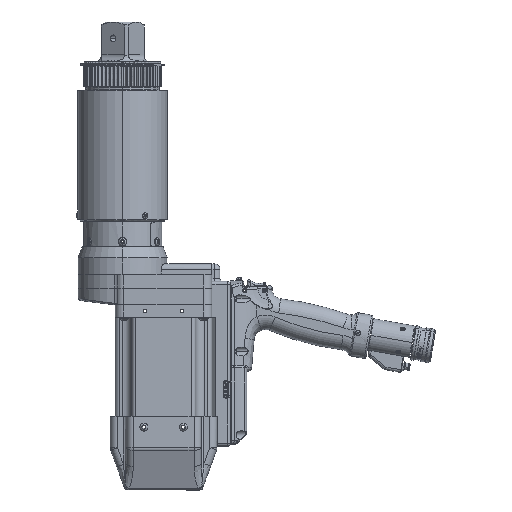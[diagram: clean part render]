
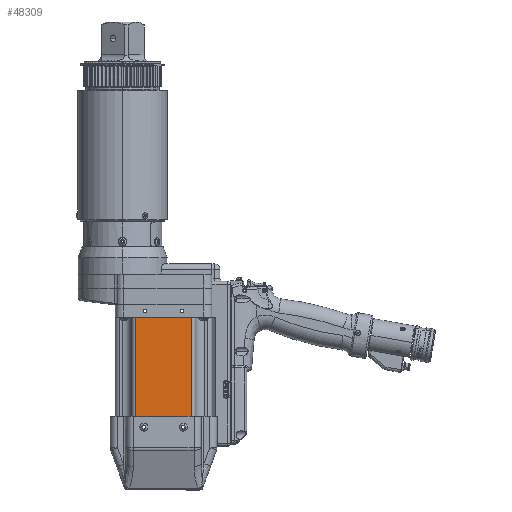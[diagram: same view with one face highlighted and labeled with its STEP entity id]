
A CAD part, left-side view. The second image highlights one B-rep face of the part: STEP entity #48309.
In plain terms, the highlighted planar face has unit normal (-1, 0, 0).
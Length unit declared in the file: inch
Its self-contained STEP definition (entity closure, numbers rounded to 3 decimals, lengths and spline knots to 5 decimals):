
#16280 = VERTEX_POINT ( 'NONE', #169344 ) ;
#35262 = CARTESIAN_POINT ( 'NONE',  ( -2.2045, 1.27, -11.54144 ) ) ;
#40039 = DIRECTION ( 'NONE',  ( 1., 0., 0. ) ) ;
#46911 = LINE ( 'NONE', #99493, #87831 ) ;
#48309 = ADVANCED_FACE ( 'NONE', ( #118516 ), #53011, .F. ) ;
#48748 = ORIENTED_EDGE ( 'NONE', *, *, #148440, .T. ) ;
#51369 = CARTESIAN_POINT ( 'NONE',  ( -2.2045, -1.27, -11.54144 ) ) ;
#53011 = PLANE ( 'NONE',  #113870 ) ;
#53628 = ORIENTED_EDGE ( 'NONE', *, *, #133148, .T. ) ;
#61209 = VECTOR ( 'NONE', #118793, 39.37008 ) ;
#68282 = DIRECTION ( 'NONE',  ( 0., 1., 0. ) ) ;
#72906 = EDGE_LOOP ( 'NONE', ( #53628, #153800, #156959, #48748 ) ) ;
#78871 = VERTEX_POINT ( 'NONE', #158009 ) ;
#87831 = VECTOR ( 'NONE', #152061, 39.37008 ) ;
#87894 = VERTEX_POINT ( 'NONE', #128686 ) ;
#94936 = LINE ( 'NONE', #96648, #144670 ) ;
#96648 = CARTESIAN_POINT ( 'NONE',  ( -2.2045, -1.27, -6.73644 ) ) ;
#99493 = CARTESIAN_POINT ( 'NONE',  ( -2.2045, -1.27, -11.54144 ) ) ;
#103945 = DIRECTION ( 'NONE',  ( 0., 0., 1. ) ) ;
#113870 = AXIS2_PLACEMENT_3D ( 'NONE', #158115, #40039, #146041 ) ;
#118074 = EDGE_CURVE ( 'NONE', #16280, #87894, #46911, .T. ) ;
#118516 = FACE_OUTER_BOUND ( 'NONE', #72906, .T. ) ;
#118793 = DIRECTION ( 'NONE',  ( 0., 0., 1. ) ) ;
#123323 = EDGE_CURVE ( 'NONE', #87894, #78871, #153348, .T. ) ;
#128686 = CARTESIAN_POINT ( 'NONE',  ( -2.2045, 1.27, -11.54144 ) ) ;
#129805 = CARTESIAN_POINT ( 'NONE',  ( -2.2045, -1.27, -6.73644 ) ) ;
#133148 = EDGE_CURVE ( 'NONE', #159780, #78871, #94936, .T. ) ;
#144670 = VECTOR ( 'NONE', #68282, 39.37008 ) ;
#146041 = DIRECTION ( 'NONE',  ( 0., 0., -1. ) ) ;
#148440 = EDGE_CURVE ( 'NONE', #16280, #159780, #170247, .T. ) ;
#148816 = VECTOR ( 'NONE', #103945, 39.37008 ) ;
#152061 = DIRECTION ( 'NONE',  ( 0., 1., 0. ) ) ;
#153348 = LINE ( 'NONE', #35262, #61209 ) ;
#153800 = ORIENTED_EDGE ( 'NONE', *, *, #123323, .F. ) ;
#156959 = ORIENTED_EDGE ( 'NONE', *, *, #118074, .F. ) ;
#158009 = CARTESIAN_POINT ( 'NONE',  ( -2.2045, 1.27, -6.73644 ) ) ;
#158115 = CARTESIAN_POINT ( 'NONE',  ( -2.2045, -1.27, -11.54144 ) ) ;
#159780 = VERTEX_POINT ( 'NONE', #129805 ) ;
#169344 = CARTESIAN_POINT ( 'NONE',  ( -2.2045, -1.27, -11.54144 ) ) ;
#170247 = LINE ( 'NONE', #51369, #148816 ) ;
